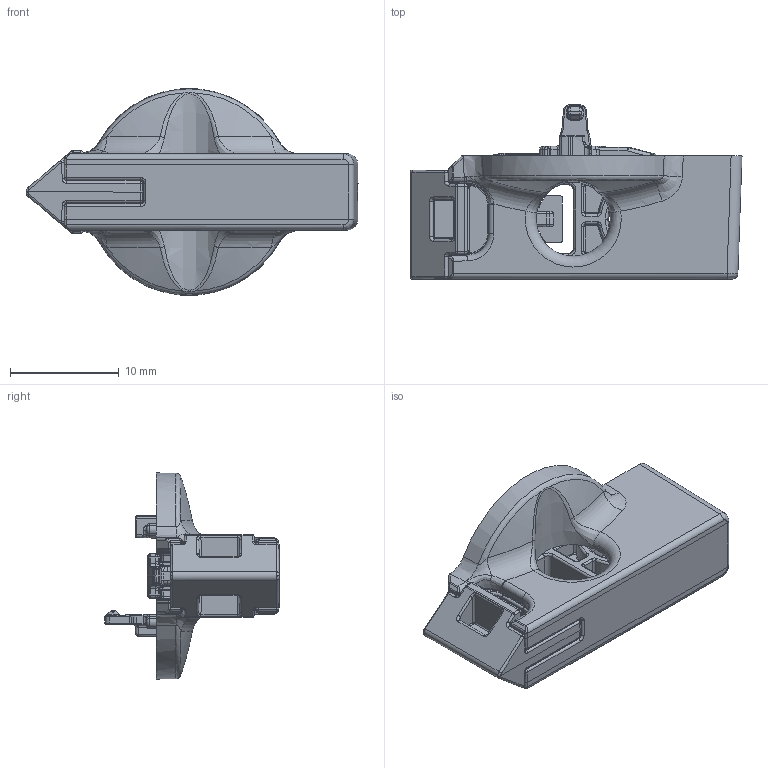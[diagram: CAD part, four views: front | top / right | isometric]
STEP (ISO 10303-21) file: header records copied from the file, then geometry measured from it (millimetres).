
FILE_DESCRIPTION((''),'2;1');
FILE_NAME('10005934559','2021-01-04T17:08:25',('RPampat'),('Rockwell Automation'),'CREO PARAMETRIC BY PTC INC, 2019444','CREO PARAMETRIC BY PTC INC, 2019444','');
FILE_SCHEMA(('CONFIG_CONTROL_DESIGN'));
Products named in the file (1): 10005934559
Bounding box: 30.5 x 16 x 18.94 mm (x, y, z)
Volume: 1712.4 mm3; surface area: 3042.8 mm2
Topology: 1 solids, 1 shells, 1806 faces, 4342 edges, 2463 vertices
Faces by surface type: cylinder 608, bspline 597, plane 315, torus 131, sphere 86, cone 65, extrusion 4
Entity records: 85194 total; most frequent: CARTESIAN_POINT 48793, ORIENTED_EDGE 8518, DIRECTION 6301, EDGE_CURVE 4259, VERTEX_POINT 2461, AXIS2_PLACEMENT_3D 2454, EDGE_LOOP 1824, FACE_OUTER_BOUND 1806
